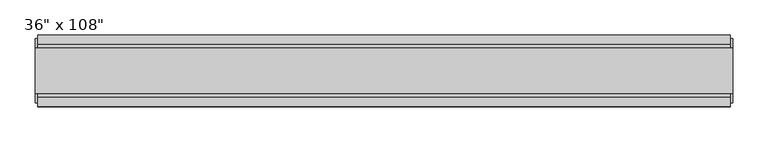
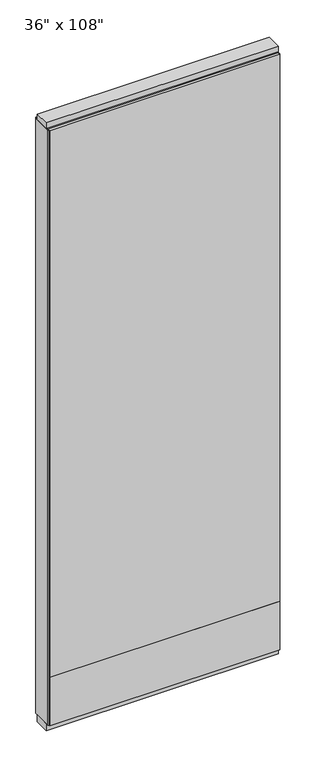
"""IFC4 building model written with IfcOpenShell, lengths in millimetres: furniture geometry."""

from ifc_helpers import new_model, si_unit, frame, origin, origin_with_axes, place, context, project, spatial, polyline, outline, extrude, source, transform, mapped, element, save


def furniture_82a8fee0(model_context):
    return source(origin(), model_context, "Body", "SweptSolid", [
        extrude(outline(polyline([(431.3264771, 46.2822784), (431.3264771, 33.5822784), (-551.3995229, 33.5822784), (-551.3995229, 46.2822784), (431.3264771, 46.2822784)])), frame((0.0, 0.0, 249.936), z_axis=(0.0, 0.0, 1.0), x_axis=(1.0, 0.0, 0.0)), (0.0, 0.0, 1.0), 2467.864),
        extrude(outline(polyline([(431.3264771, -55.3177216), (-551.3995229, -55.3177216), (-551.3995229, -42.6177216), (431.3264771, -42.6177216), (431.3264771, -55.3177216)])), frame((0.0, 0.0, 249.936), z_axis=(0.0, 0.0, 1.0), x_axis=(1.0, 0.0, 0.0)), (0.0, 0.0, 1.0), 2467.864),
        extrude(outline(polyline([(431.3264771, 46.2822784), (431.3264771, 33.5822784), (-551.3995229, 33.5822784), (-551.3995229, 46.2822784), (431.3264771, 46.2822784)])), frame((0.0, 0.0, 31.75), z_axis=(0.0, 0.0, 1.0), x_axis=(1.0, 0.0, 0.0)), (0.0, 0.0, 1.0), 218.186),
        extrude(outline(polyline([(431.3264771, -55.3177216), (-551.3995229, -55.3177216), (-551.3995229, -42.6177216), (431.3264771, -42.6177216), (431.3264771, -55.3177216)])), frame((0.0, 0.0, 31.75), z_axis=(0.0, 0.0, 1.0), x_axis=(1.0, 0.0, 0.0)), (0.0, 0.0, 1.0), 218.186),
        extrude(outline(polyline([(-42.6177216, 2681.478), (-42.6177216, 2717.8), (33.5822784, 2717.8), (33.5822784, 2681.478), (28.6292784, 2681.478), (28.6292784, 2676.525), (-37.6647216, 2676.525), (-37.6647216, 2681.478), (-42.6177216, 2681.478)])), frame((-551.3995229, 0.0, 0.0), z_axis=(1.0, 0.0, 0.0), x_axis=(0.0, 1.0, 0.0)), (0.0, 0.0, 1.0), 982.726),
        extrude(outline(polyline([(435.2634771, 27.9942784), (435.2634771, -37.0297216), (-555.3365229, -37.0297216), (-555.3365229, 27.9942784), (435.2634771, 27.9942784)])), origin_with_axes(), (0.0, 0.0, 1.0), 31.75),
        extrude(outline(polyline([(-555.3365229, -37.0297216), (-555.3365229, 27.9942784), (435.2634771, 27.9942784), (435.2634771, -37.0297216), (-555.3365229, -37.0297216)])), frame((0.0, 0.0, 2717.8), z_axis=(0.0, 0.0, 1.0), x_axis=(1.0, 0.0, 0.0)), (0.0, 0.0, 1.0), 25.4),
        extrude(outline(polyline([(435.2634771, -50.3647216), (431.3264771, -50.3647216), (431.3264771, 41.3292784), (435.2634771, 41.3292784), (435.2634771, -50.3647216)])), frame((0.0, 0.0, 31.75), z_axis=(0.0, 0.0, 1.0), x_axis=(1.0, 0.0, 0.0)), (0.0, 0.0, 1.0), 2686.05),
        extrude(outline(polyline([(-555.3365229, -50.3647216), (-555.3365229, 41.3292784), (-551.3995229, 41.3292784), (-551.3995229, -50.3647216), (-555.3365229, -50.3647216)])), frame((0.0, 0.0, 31.75), z_axis=(0.0, 0.0, 1.0), x_axis=(1.0, 0.0, 0.0)), (0.0, 0.0, 1.0), 2686.05),
    ])


if __name__ == "__main__":
    model = new_model("IFC4")
    model_context = context("Model", 3, world=origin())
    ifc_project = project(units=[si_unit("LENGTHUNIT", "METRE", prefix="MILLI")], contexts=[model_context])
    site = spatial("IfcSite", under=ifc_project)
    building = spatial("IfcBuilding", under=site)
    placement = place(None, origin())
    furniture_shape = furniture_82a8fee0(model_context)
    element("IfcFurniture", 1, ObjectType="Haworth_Enclose-Wall-Solid : 36\" x 108\"", at=placement, inside=building, context=model_context, shape_type="MappedRepresentation", body=[
        mapped(furniture_shape, transform((0.0, 0.0, 0.0), x_axis=(1.0, 0.0, 0.0), y_axis=(0.0, 1.0, 0.0), z_axis=(0.0, 0.0, 1.0))),
    ])
    save(model, "model.ifc")
